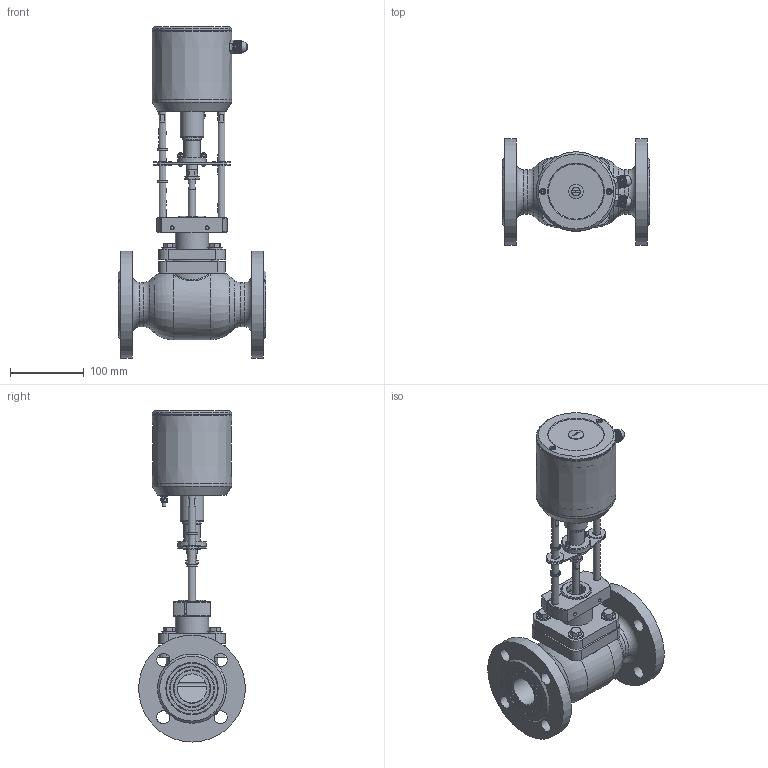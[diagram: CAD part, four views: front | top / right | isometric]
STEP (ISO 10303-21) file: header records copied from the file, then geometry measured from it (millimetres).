
FILE_DESCRIPTION(('STEP AP203'), '1');
FILE_NAME('ÊÏÑ-2 Äó40 ñ ÝÏ-100-01', '', ('UNSPECIFIED'), ('UNSPECIFIED'), 'ASCON STEP Converter 1.3', 'ASCON Math Kernel', '');
FILE_SCHEMA(('CONFIG_CONTROL_DESIGN'));
Length unit declared in the file: millimetre
Bounding box: 200 x 145 x 450.81 mm (x, y, z)
Volume: 1660469.3 mm3; surface area: 426399.8 mm2
Topology: 20 solids, 24 shells, 2046 faces, 5342 edges, 3488 vertices
Faces by surface type: cylinder 958, plane 801, cone 190, bspline 51, torus 37, sphere 5, revolution 4
Full cylindrical faces by diameter (mm): 1.7 x2, 2 x2, 2.8 x2, 3.3 x2, 3.341 x3, 3.5 x4, 3.8 x2, 4 x6, 4.2 x2, 4.8 x2, 4.999 x6, 5 x14, 5.199 x3, 5.3 x3, 5.4 x3, 5.999 x3, 6 x6, 6.2 x2, 6.647 x2, 6.793 x2, 7 x4, 7.5 x1, 8 x3, 8.2 x2, 8.4 x2, 8.5 x2, 9.2 x4, 9.5 x1, 9.6 x2, 9.981 x1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
Entity records: 111245 total; most frequent: CARTESIAN_POINT 46909, ORIENTED_EDGE 9824, DIRECTION 9436, EDGE_CURVE 4912, AXIS2_PLACEMENT_3D 3728, VERTEX_POINT 3480, EDGE_LOOP 2710, COLOUR_RGB 2061
